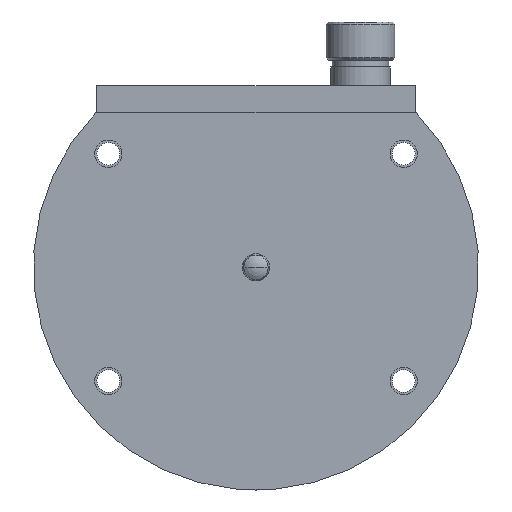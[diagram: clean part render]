
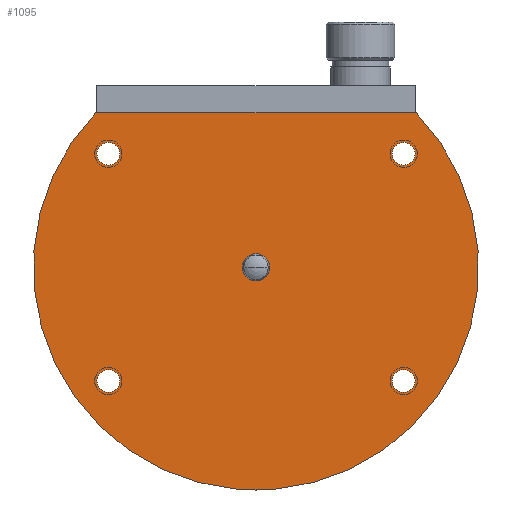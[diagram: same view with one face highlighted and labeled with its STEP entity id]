
A CAD part, front view. The second image highlights one B-rep face of the part: STEP entity #1095.
In plain terms, the highlighted planar face has unit normal (0, -1, 0) as drawn and (0, 0, -1) by its records, which use the part's own axes.
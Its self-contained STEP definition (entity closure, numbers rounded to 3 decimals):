
#164=CARTESIAN_POINT('',(0.,0.,0.));
#165=DIRECTION('',(0.,0.,1.));
#166=DIRECTION('',(0.,1.,0.));
#167=AXIS2_PLACEMENT_3D('',#164,#165,#166);
#169=CARTESIAN_POINT('',(0.,0.,0.));
#170=DIRECTION('',(0.,0.,-1.));
#171=DIRECTION('',(0.,1.,0.));
#172=AXIS2_PLACEMENT_3D('',#169,#170,#171);
#174=DIRECTION('',(0.,1.,0.));
#175=VECTOR('',#174,70.569);
#176=CARTESIAN_POINT('',(-34.,-35.285,0.));
#177=LINE('',#176,#175);
#178=CARTESIAN_POINT('',(-25.,32.5,0.));
#179=DIRECTION('',(0.,0.,1.));
#180=DIRECTION('',(-1.,0.,0.));
#181=AXIS2_PLACEMENT_3D('',#178,#179,#180);
#183=CARTESIAN_POINT('',(-25.,32.5,0.));
#184=DIRECTION('',(0.,0.,1.));
#185=DIRECTION('',(1.,0.,0.));
#186=AXIS2_PLACEMENT_3D('',#183,#184,#185);
#188=CARTESIAN_POINT('',(25.,32.5,0.));
#189=DIRECTION('',(0.,0.,-1.));
#190=DIRECTION('',(1.,0.,0.));
#191=AXIS2_PLACEMENT_3D('',#188,#189,#190);
#193=CARTESIAN_POINT('',(25.,32.5,0.));
#194=DIRECTION('',(0.,0.,-1.));
#195=DIRECTION('',(-1.,0.,0.));
#196=AXIS2_PLACEMENT_3D('',#193,#194,#195);
#198=CARTESIAN_POINT('',(-25.,-32.5,0.));
#199=DIRECTION('',(0.,0.,-1.));
#200=DIRECTION('',(-1.,0.,0.));
#201=AXIS2_PLACEMENT_3D('',#198,#199,#200);
#203=CARTESIAN_POINT('',(-25.,-32.5,0.));
#204=DIRECTION('',(0.,0.,-1.));
#205=DIRECTION('',(1.,0.,0.));
#206=AXIS2_PLACEMENT_3D('',#203,#204,#205);
#208=CARTESIAN_POINT('',(25.,-32.5,0.));
#209=DIRECTION('',(0.,0.,1.));
#210=DIRECTION('',(1.,0.,0.));
#211=AXIS2_PLACEMENT_3D('',#208,#209,#210);
#213=CARTESIAN_POINT('',(25.,-32.5,0.));
#214=DIRECTION('',(0.,0.,1.));
#215=DIRECTION('',(-1.,0.,0.));
#216=AXIS2_PLACEMENT_3D('',#213,#214,#215);
#637=CARTESIAN_POINT('',(0.,0.,0.));
#638=DIRECTION('',(0.,0.,-1.));
#639=DIRECTION('',(-0.694,0.72,0.));
#640=AXIS2_PLACEMENT_3D('',#637,#638,#639);
#757=CARTESIAN_POINT('',(0.,3.,0.));
#759=VERTEX_POINT('',#757);
#769=CARTESIAN_POINT('',(0.,-3.,0.));
#771=VERTEX_POINT('',#769);
#776=CARTESIAN_POINT('',(-34.,-35.285,0.));
#777=CARTESIAN_POINT('',(-34.,35.285,0.));
#778=VERTEX_POINT('',#776);
#779=VERTEX_POINT('',#777);
#800=CARTESIAN_POINT('',(-27.5,32.5,0.));
#801=CARTESIAN_POINT('',(-22.5,32.5,0.));
#802=VERTEX_POINT('',#800);
#803=VERTEX_POINT('',#801);
#816=CARTESIAN_POINT('',(27.5,32.5,0.));
#817=CARTESIAN_POINT('',(22.5,32.5,0.));
#818=VERTEX_POINT('',#816);
#819=VERTEX_POINT('',#817);
#832=CARTESIAN_POINT('',(-27.5,-32.5,0.));
#833=CARTESIAN_POINT('',(-22.5,-32.5,0.));
#834=VERTEX_POINT('',#832);
#835=VERTEX_POINT('',#833);
#848=CARTESIAN_POINT('',(27.5,-32.5,0.));
#849=CARTESIAN_POINT('',(22.5,-32.5,0.));
#850=VERTEX_POINT('',#848);
#851=VERTEX_POINT('',#849);
#1056=CARTESIAN_POINT('',(0.,0.,0.));
#1057=DIRECTION('',(0.,0.,-1.));
#1058=DIRECTION('',(0.,-1.,0.));
#1059=AXIS2_PLACEMENT_3D('',#1056,#1057,#1058);
#1060=PLANE('',#1059);
#1062=ORIENTED_EDGE('',*,*,#1061,.F.);
#1064=ORIENTED_EDGE('',*,*,#1063,.F.);
#1065=EDGE_LOOP('',(#1062,#1064));
#1066=FACE_OUTER_BOUND('',#1065,.F.);
#1067=ORIENTED_EDGE('',*,*,#1049,.F.);
#1068=ORIENTED_EDGE('',*,*,#1038,.T.);
#1069=EDGE_LOOP('',(#1067,#1068));
#1070=FACE_BOUND('',#1069,.F.);
#1072=ORIENTED_EDGE('',*,*,#1071,.F.);
#1074=ORIENTED_EDGE('',*,*,#1073,.F.);
#1075=EDGE_LOOP('',(#1072,#1074));
#1076=FACE_BOUND('',#1075,.F.);
#1078=ORIENTED_EDGE('',*,*,#1077,.T.);
#1080=ORIENTED_EDGE('',*,*,#1079,.T.);
#1081=EDGE_LOOP('',(#1078,#1080));
#1082=FACE_BOUND('',#1081,.F.);
#1084=ORIENTED_EDGE('',*,*,#1083,.T.);
#1086=ORIENTED_EDGE('',*,*,#1085,.T.);
#1087=EDGE_LOOP('',(#1084,#1086));
#1088=FACE_BOUND('',#1087,.F.);
#1090=ORIENTED_EDGE('',*,*,#1089,.F.);
#1092=ORIENTED_EDGE('',*,*,#1091,.F.);
#1093=EDGE_LOOP('',(#1090,#1092));
#1094=FACE_BOUND('',#1093,.F.);
#1095=ADVANCED_FACE('',(#1066,#1070,#1076,#1082,#1088,#1094),#1060,.T.);
#168=CIRCLE('',#167,3.);
#173=CIRCLE('',#172,3.);
#182=CIRCLE('',#181,2.5);
#187=CIRCLE('',#186,2.5);
#192=CIRCLE('',#191,2.5);
#197=CIRCLE('',#196,2.5);
#202=CIRCLE('',#201,2.5);
#207=CIRCLE('',#206,2.5);
#212=CIRCLE('',#211,2.5);
#217=CIRCLE('',#216,2.5);
#641=CIRCLE('',#640,49.);
#1038=EDGE_CURVE('',#759,#771,#173,.T.);
#1049=EDGE_CURVE('',#759,#771,#168,.T.);
#1061=EDGE_CURVE('',#778,#779,#177,.T.);
#1063=EDGE_CURVE('',#779,#778,#641,.T.);
#1071=EDGE_CURVE('',#802,#803,#182,.T.);
#1073=EDGE_CURVE('',#803,#802,#187,.T.);
#1077=EDGE_CURVE('',#818,#819,#192,.T.);
#1079=EDGE_CURVE('',#819,#818,#197,.T.);
#1083=EDGE_CURVE('',#834,#835,#202,.T.);
#1085=EDGE_CURVE('',#835,#834,#207,.T.);
#1089=EDGE_CURVE('',#850,#851,#212,.T.);
#1091=EDGE_CURVE('',#851,#850,#217,.T.);
